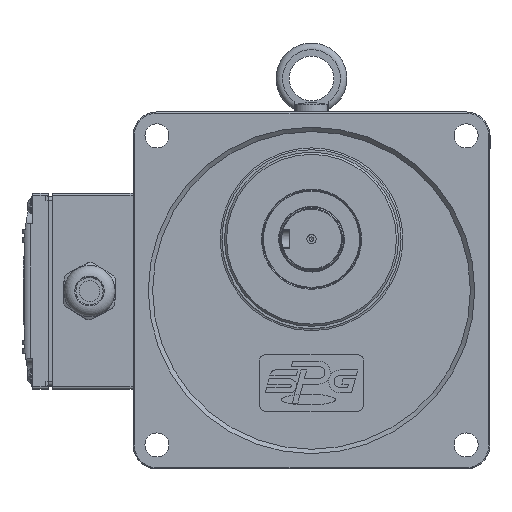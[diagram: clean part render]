
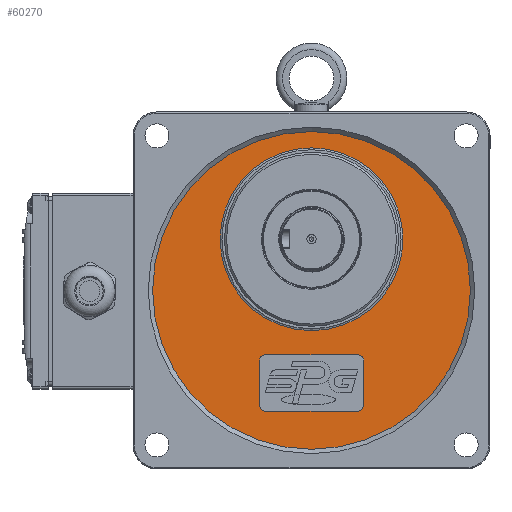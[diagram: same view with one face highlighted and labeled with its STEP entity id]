
A CAD part, top view. The second image highlights one B-rep face of the part: STEP entity #60270.
In plain terms, the highlighted planar face has unit normal (0, 0, 1).
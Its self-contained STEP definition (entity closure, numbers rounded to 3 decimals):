
#1959=FACE_BOUND('',#12590,.T.);
#1960=FACE_BOUND('',#12591,.T.);
#2763=PLANE('',#65914);
#8877=FACE_OUTER_BOUND('',#12589,.T.);
#12589=EDGE_LOOP('',(#51967));
#12590=EDGE_LOOP('',(#51968,#51969,#51970,#51971,#51972,#51973,#51974,#51975));
#12591=EDGE_LOOP('',(#51976));
#18398=CIRCLE('',#65797,3.);
#18400=CIRCLE('',#65801,3.);
#18402=CIRCLE('',#65805,3.);
#18426=CIRCLE('',#65832,3.);
#18451=CIRCLE('',#65915,73.);
#18452=CIRCLE('',#65916,42.);
#21241=LINE('',#130507,#24116);
#21245=LINE('',#130519,#24120);
#21280=LINE('',#130638,#24155);
#21373=LINE('',#130870,#24248);
#24116=VECTOR('',#78493,42.);
#24120=VECTOR('',#78505,20.);
#24155=VECTOR('',#78596,42.);
#24248=VECTOR('',#78855,20.);
#29189=VERTEX_POINT('',#130497);
#29190=VERTEX_POINT('',#130499);
#29192=VERTEX_POINT('',#130505);
#29194=VERTEX_POINT('',#130511);
#29196=VERTEX_POINT('',#130517);
#29199=VERTEX_POINT('',#130524);
#29200=VERTEX_POINT('',#130526);
#29252=VERTEX_POINT('',#130637);
#29309=VERTEX_POINT('',#130872);
#29310=VERTEX_POINT('',#130874);
#36936=EDGE_CURVE('',#29189,#29190,#18398,.T.);
#36940=EDGE_CURVE('',#29189,#29192,#21241,.T.);
#36943=EDGE_CURVE('',#29194,#29192,#18400,.T.);
#36946=EDGE_CURVE('',#29194,#29196,#21245,.T.);
#36949=EDGE_CURVE('',#29199,#29200,#18402,.T.);
#37006=EDGE_CURVE('',#29252,#29200,#21280,.T.);
#37008=EDGE_CURVE('',#29252,#29196,#18426,.T.);
#37124=EDGE_CURVE('',#29199,#29190,#21373,.T.);
#37125=EDGE_CURVE('',#29309,#29309,#18451,.T.);
#37126=EDGE_CURVE('',#29310,#29310,#18452,.T.);
#51967=ORIENTED_EDGE('',*,*,#37125,.T.);
#51968=ORIENTED_EDGE('',*,*,#36946,.T.);
#51969=ORIENTED_EDGE('',*,*,#37008,.F.);
#51970=ORIENTED_EDGE('',*,*,#37006,.T.);
#51971=ORIENTED_EDGE('',*,*,#36949,.F.);
#51972=ORIENTED_EDGE('',*,*,#37124,.T.);
#51973=ORIENTED_EDGE('',*,*,#36936,.F.);
#51974=ORIENTED_EDGE('',*,*,#36940,.T.);
#51975=ORIENTED_EDGE('',*,*,#36943,.F.);
#51976=ORIENTED_EDGE('',*,*,#37126,.F.);
#60270=ADVANCED_FACE('',(#8877,#1959,#1960),#2763,.F.);
#65797=AXIS2_PLACEMENT_3D('',#130500,#78486,#78487);
#65801=AXIS2_PLACEMENT_3D('',#130513,#78499,#78500);
#65805=AXIS2_PLACEMENT_3D('',#130527,#78511,#78512);
#65832=AXIS2_PLACEMENT_3D('',#130641,#78600,#78601);
#65914=AXIS2_PLACEMENT_3D('',#130871,#78856,#78857);
#65915=AXIS2_PLACEMENT_3D('',#130873,#78858,#78859);
#65916=AXIS2_PLACEMENT_3D('',#130875,#78860,#78861);
#78486=DIRECTION('center_axis',(0.,0.,
1.));
#78487=DIRECTION('ref_axis',(0.707,-0.707,0.));
#78493=DIRECTION('',(-1.,0.,0.));
#78499=DIRECTION('center_axis',(0.,0.,
1.));
#78500=DIRECTION('ref_axis',(-0.707,-0.707,0.));
#78505=DIRECTION('',(0.,1.,0.));
#78511=DIRECTION('center_axis',(0.,0.,
1.));
#78512=DIRECTION('ref_axis',(0.707,0.707,0.));
#78596=DIRECTION('',(1.,0.,0.));
#78600=DIRECTION('center_axis',(0.,0.,
1.));
#78601=DIRECTION('ref_axis',(-0.707,0.707,0.));
#78855=DIRECTION('',(0.,-1.,0.));
#78856=DIRECTION('center_axis',(0.,0.,
-1.));
#78857=DIRECTION('ref_axis',(-1.,0.,0.));
#78858=DIRECTION('center_axis',(0.,0.,
1.));
#78859=DIRECTION('ref_axis',(-1.,0.,0.));
#78860=DIRECTION('center_axis',(0.,0.,
1.));
#78861=DIRECTION('ref_axis',(-1.,0.,0.));
#130497=CARTESIAN_POINT('',(26.495,-71.973,26.5));
#130499=CARTESIAN_POINT('',(29.495,-68.973,26.5));
#130500=CARTESIAN_POINT('Origin',(26.495,-68.973,26.5));
#130505=CARTESIAN_POINT('',(-15.505,-71.973,26.5));
#130507=CARTESIAN_POINT('',(26.495,-71.973,26.5));
#130511=CARTESIAN_POINT('',(-18.505,-68.973,26.5));
#130513=CARTESIAN_POINT('Origin',(-15.505,-68.973,26.5));
#130517=CARTESIAN_POINT('',(-18.505,-48.973,26.5));
#130519=CARTESIAN_POINT('',(-18.505,-68.973,26.5));
#130524=CARTESIAN_POINT('',(29.495,-48.973,26.5));
#130526=CARTESIAN_POINT('',(26.495,-45.973,26.5));
#130527=CARTESIAN_POINT('Origin',(26.495,-48.973,26.5));
#130637=CARTESIAN_POINT('',(-15.505,-45.973,26.5));
#130638=CARTESIAN_POINT('',(-15.505,-45.973,26.5));
#130641=CARTESIAN_POINT('Origin',(-15.505,-48.973,26.5));
#130870=CARTESIAN_POINT('',(29.495,-48.973,26.5));
#130871=CARTESIAN_POINT('Origin',(5.495,-16.473,26.5));
#130872=CARTESIAN_POINT('',(78.495,-16.473,26.5));
#130873=CARTESIAN_POINT('Origin',(5.495,-16.473,26.5));
#130874=CARTESIAN_POINT('',(-36.505,7.027,26.5));
#130875=CARTESIAN_POINT('Origin',(5.495,7.027,26.5));
